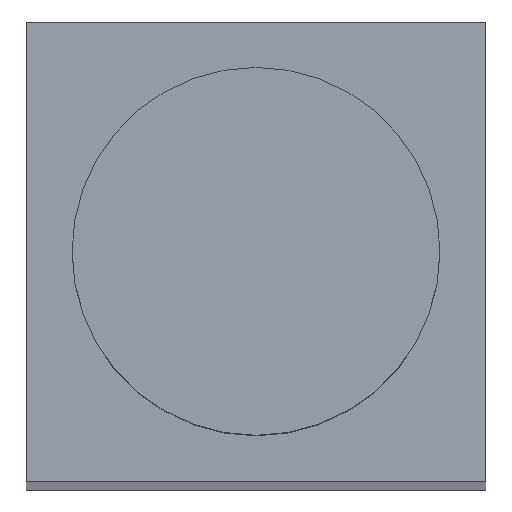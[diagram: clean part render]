
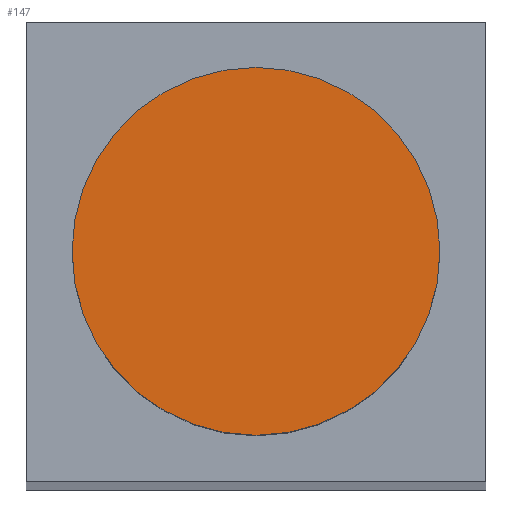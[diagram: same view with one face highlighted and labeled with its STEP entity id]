
A CAD part, top view. The second image highlights one B-rep face of the part: STEP entity #147.
In plain terms, the highlighted planar face has unit normal (0, 0, 1).
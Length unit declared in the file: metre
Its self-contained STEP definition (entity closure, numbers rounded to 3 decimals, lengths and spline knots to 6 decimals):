
#43=PLANE('',#174);
#75=ORIENTED_EDGE('',*,*,#91,.T.);
#91=EDGE_CURVE('',#103,#103,#107,.T.);
#103=VERTEX_POINT('',#254);
#107=CIRCLE('',#173,0.004);
#121=EDGE_LOOP('',(#75));
#135=FACE_BOUND('',#121,.T.);
#147=ADVANCED_FACE('',(#135),#43,.T.);
#173=AXIS2_PLACEMENT_3D('',#253,#213,#214);
#174=AXIS2_PLACEMENT_3D('',#255,#215,#216);
#213=DIRECTION('',(0.,0.,1.));
#214=DIRECTION('',(1.,0.,0.));
#215=DIRECTION('',(0.,0.,1.));
#216=DIRECTION('',(1.,0.,0.));
#253=CARTESIAN_POINT('',(0.,0.,0.0578));
#254=CARTESIAN_POINT('',(0.004,0.,0.0578));
#255=CARTESIAN_POINT('',(0.,0.,0.0578));
